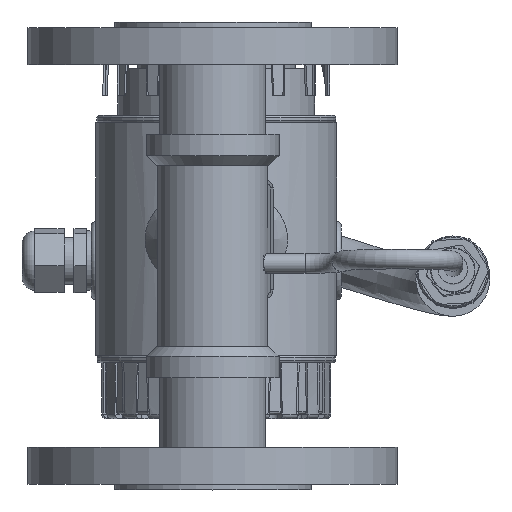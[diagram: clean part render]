
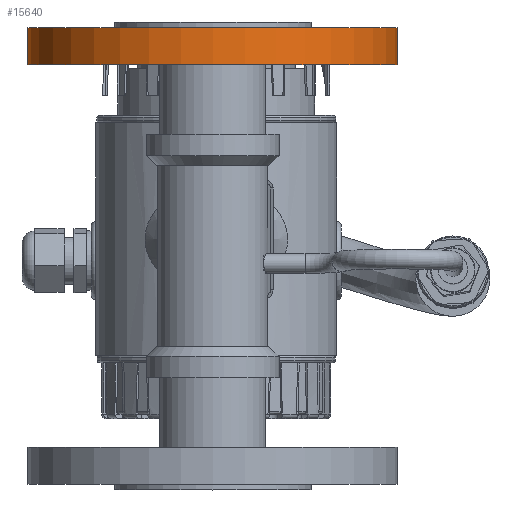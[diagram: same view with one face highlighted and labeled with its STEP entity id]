
A CAD part, front view. The second image highlights one B-rep face of the part: STEP entity #15640.
In plain terms, the highlighted cylindrical face has radius 75 mm (diameter 150 mm), a full revolution.
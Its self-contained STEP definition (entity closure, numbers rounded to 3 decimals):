
#2188=LINE('',#30230,#3354);
#3354=VECTOR('',#21757,75.);
#3724=CYLINDRICAL_SURFACE('',#17369,75.);
#4549=FACE_OUTER_BOUND('',#5536,.T.);
#5536=EDGE_LOOP('',(#14041,#14042,#14043,#14044));
#6329=CIRCLE('',#17370,75.);
#6330=CIRCLE('',#17371,75.);
#7681=VERTEX_POINT('',#30227);
#7682=VERTEX_POINT('',#30229);
#9843=EDGE_CURVE('',#7681,#7681,#6329,.T.);
#9844=EDGE_CURVE('',#7681,#7682,#2188,.T.);
#9845=EDGE_CURVE('',#7682,#7682,#6330,.T.);
#14041=ORIENTED_EDGE('',*,*,#9843,.F.);
#14042=ORIENTED_EDGE('',*,*,#9844,.T.);
#14043=ORIENTED_EDGE('',*,*,#9845,.F.);
#14044=ORIENTED_EDGE('',*,*,#9844,.F.);
#15640=ADVANCED_FACE('',(#4549),#3724,.T.);
#17369=AXIS2_PLACEMENT_3D('',#30226,#21753,#21754);
#17370=AXIS2_PLACEMENT_3D('',#30228,#21755,#21756);
#17371=AXIS2_PLACEMENT_3D('',#30231,#21758,#21759);
#21753=DIRECTION('center_axis',(0.,0.,1.));
#21754=DIRECTION('ref_axis',(-1.,0.,0.));
#21755=DIRECTION('center_axis',(0.,0.,
1.));
#21756=DIRECTION('ref_axis',(-1.,0.,0.));
#21757=DIRECTION('',(0.,0.,-1.));
#21758=DIRECTION('center_axis',(0.,0.,
-1.));
#21759=DIRECTION('ref_axis',(-1.,0.,0.));
#30226=CARTESIAN_POINT('Origin',(-376.541,200.905,279.82));
#30227=CARTESIAN_POINT('',(-301.541,200.904,294.861));
#30228=CARTESIAN_POINT('Origin',(-376.541,200.904,294.861));
#30229=CARTESIAN_POINT('',(-301.541,200.905,279.82));
#30230=CARTESIAN_POINT('',(-301.541,200.905,279.82));
#30231=CARTESIAN_POINT('Origin',(-376.541,200.905,279.82));
